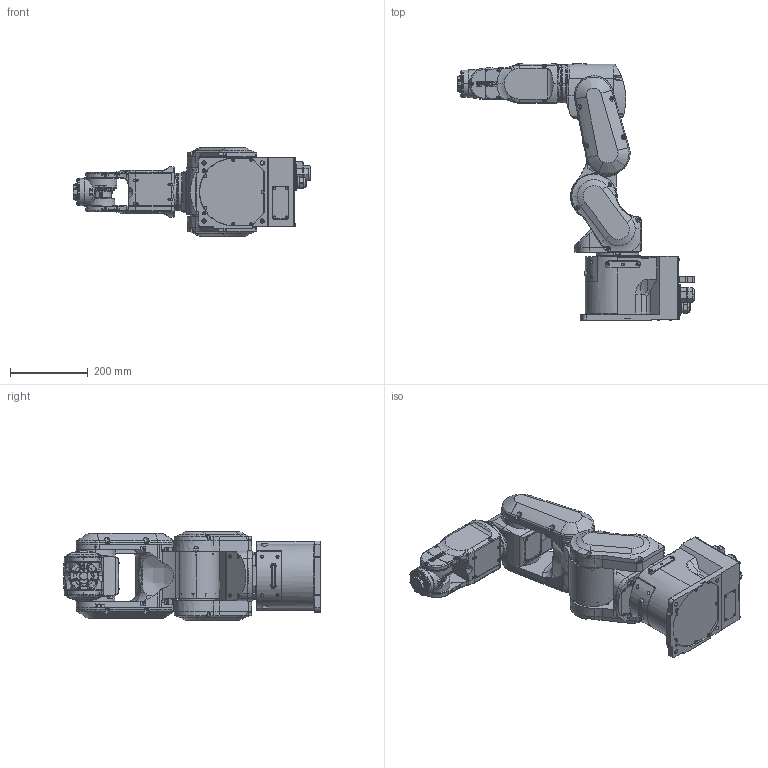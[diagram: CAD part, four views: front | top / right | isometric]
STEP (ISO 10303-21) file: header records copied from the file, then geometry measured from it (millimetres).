
FILE_DESCRIPTION (( 'STEP AP214' ), '1' );
FILE_NAME ('CX4-x601SN.STEP', '2026-07-23T20:39:53', ( '' ), ( '' ), 'SwSTEP 2.0', 'SolidWorks 2020', '' );
FILE_SCHEMA (( 'AUTOMOTIVE_DESIGN' ));
Length unit declared in the file: millimetre
Products named in the file (8): CX4-x601SN; CX4-A601S-NIW_BASE; CX4-A601S-NIW_J3; CX4-A601S-NIW_J6; CX4-A601S-NIW_J5; CX4-A601S-NIW_J2; CX4-A601S-NIW_J1; CX4-A601S-NIW_J4
Assembly tree (7 placements, depth 2):
  CX4-x601SN
    CX4-A601S-NIW_BASE
    CX4-A601S-NIW_J1
    CX4-A601S-NIW_J2
    CX4-A601S-NIW_J3
    CX4-A601S-NIW_J4
    CX4-A601S-NIW_J5
    CX4-A601S-NIW_J6
Bounding box: 613 x 662 x 228 mm (x, y, z)
Volume: 9065135 mm3; surface area: 1000903.1 mm2
Topology: 5 solids, 8 shells, 3262 faces, 8271 edges, 5158 vertices
Faces by surface type: plane 1133, cylinder 1110, cone 600, torus 287, sphere 90, bspline 42
Entity records: 148384 total; most frequent: CARTESIAN_POINT 60063, ORIENTED_EDGE 16240, DIRECTION 13011, EDGE_CURVE 8127, AXIS2_PLACEMENT_3D 5382, VERTEX_POINT 5158, B_SPLINE_CURVE_WITH_KNOTS 3712, EDGE_LOOP 3562
